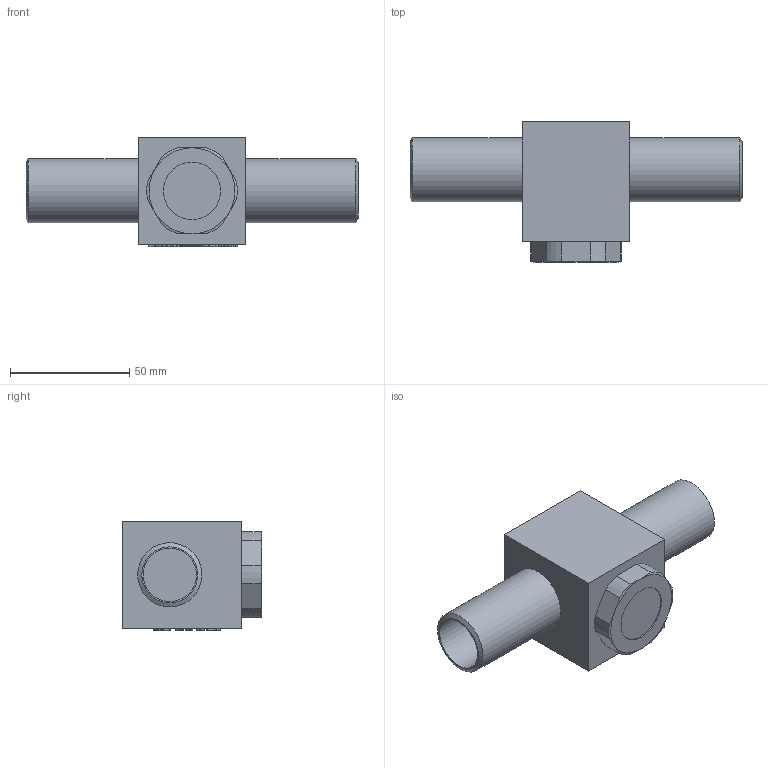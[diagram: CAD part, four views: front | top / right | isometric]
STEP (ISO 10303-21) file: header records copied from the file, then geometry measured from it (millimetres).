
FILE_DESCRIPTION(/* description */ (''),/* implementation_level */ '2;1');
FILE_NAME(/* name */ 'P:\Accessories\SSG-22_DN20-T-CDH\SSG-22_DN20-T-CDH.stp',/* time_stamp */ '2018-01-02T15:51:42+01:00',/* author */ ('neufeld'),/* organization */ (''),/* preprocessor_version */ 'ST-DEVELOPER v16.1',/* originating_system */ 'Autodesk Inventor 2016',/* authorisation */ '');
FILE_SCHEMA (('AUTOMOTIVE_DESIGN { 1 0 10303 214 3 1 1 }'));
Length unit declared in the file: millimetre
Products named in the file (1): SSG-22_DN20-T-CDH_AG_Kunde
Bounding box: 139 x 58.6 x 46 mm (x, y, z)
Volume: 146474.2 mm3; surface area: 25790.3 mm2
Topology: 1 solids, 1 shells, 1174 faces, 3234 edges, 2154 vertices
Faces by surface type: plane 675, bspline 480, cylinder 11, cone 8
Full cylindrical faces by diameter (mm): 22.4 x2, 24 x1, 26.9 x2
Entity records: 38959 total; most frequent: CARTESIAN_POINT 12304, ORIENTED_EDGE 6450, DIRECTION 3673, EDGE_CURVE 3225, LINE 2223, VECTOR 2223, VERTEX_POINT 2152, EDGE_LOOP 1273
